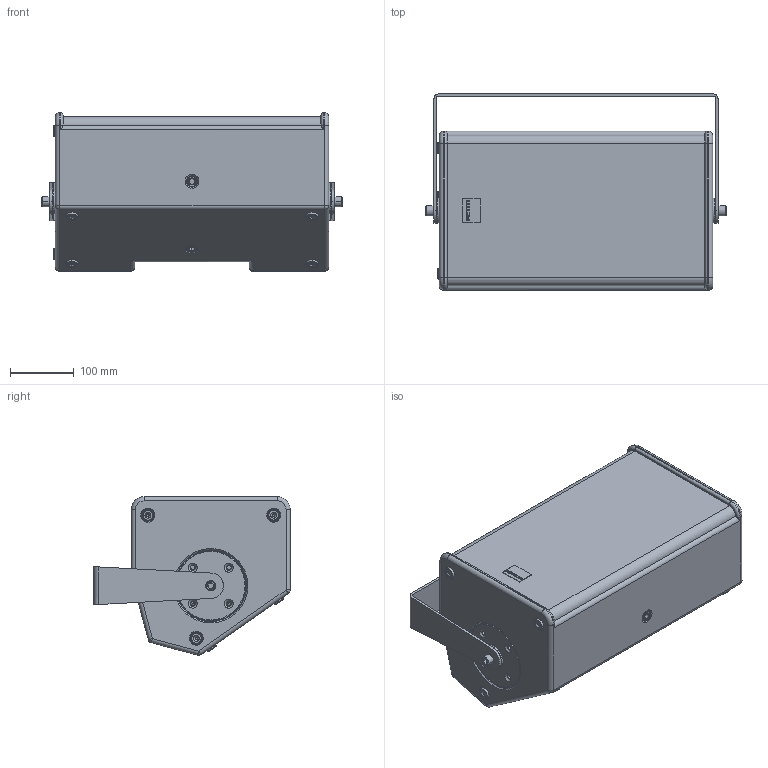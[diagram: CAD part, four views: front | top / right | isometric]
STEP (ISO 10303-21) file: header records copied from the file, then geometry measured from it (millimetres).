
FILE_DESCRIPTION (( 'STEP AP203' ), '1' );
FILE_NAME ('Seeburg_TSM8_Bracket_hor.STEP', '2012-10-17T12:12:10', ( 'Fabian' ), ( '' ), 'SwSTEP 2.0', 'SolidWorks 2009', '' );
FILE_SCHEMA (( 'CONFIG_CONTROL_DESIGN' ));
Length unit declared in the file: millimetre
Products named in the file (24): Imported43; Imported57; Imported38; Seeburg_TSM8_Bracket_hor; TSM8_Bracket-hor; Imported45; Imported46; Imported47; Imported48; Imported58; Imported59; Imported49; Imported51; Imported50; Imported44; Imported39; Imported40; Imported41; Imported42; Imported52; Imported53; Imported56; Imported54; Imported55
Assembly tree (23 placements, depth 3):
  Seeburg_TSM8_Bracket_hor
    TSM8_Bracket-hor
      Imported59
      Imported39
      Imported45
      Imported41
      Imported43
      Imported48
      Imported42
      Imported56
      Imported38
      Imported44
      Imported46
      Imported58
      Imported51
      Imported55
      Imported54
      Imported40
      Imported47
      Imported49
      Imported52
      Imported53
      Imported57
      Imported50
Bounding box: 472.21 x 309 x 249.41 mm (x, y, z)
Volume: 5553319.6 mm3; surface area: 1123726 mm2
Topology: 30 solids, 30 shells, 844 faces, 2058 edges, 1320 vertices
Faces by surface type: cylinder 383, plane 263, cone 100, torus 82, sphere 16
Entity records: 33648 total; most frequent: CARTESIAN_POINT 10811, DIRECTION 4432, ORIENTED_EDGE 4108, EDGE_CURVE 2054, AXIS2_PLACEMENT_3D 1748, VERTEX_POINT 1318, EDGE_LOOP 998, VECTOR 936
